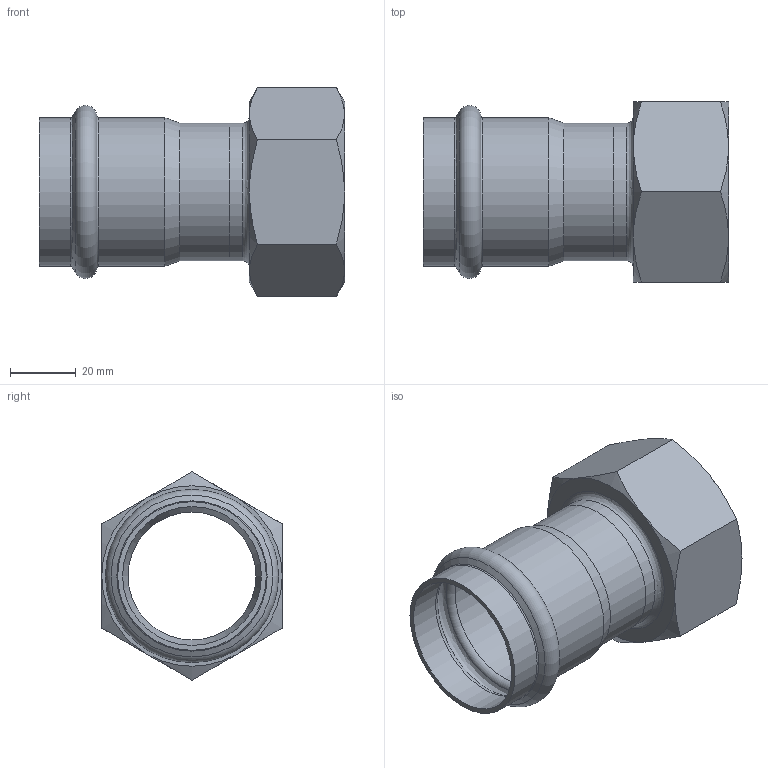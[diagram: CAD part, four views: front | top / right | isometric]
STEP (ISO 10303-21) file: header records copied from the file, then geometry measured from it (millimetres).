
FILE_DESCRIPTION((''),'2;1');
FILE_NAME('G:\Nirosan-Schmiedefeld\Technics\CAD\001 Serie 9.000\042\69270G42112H(2).stp','2017-10-24T09:11:14',('herberg'),(''),'Autodesk Inventor 2009','Autodesk Inventor 2009','');
FILE_SCHEMA(('AUTOMOTIVE_DESIGN { 1 0 10303 214 1 1 1 1 }'));
Length unit declared in the file: millimetre
Products named in the file (3): 69270G42112H(2); 69243G42HM(1); IG42112(1)
Assembly tree (2 placements, depth 2):
  69270G42112H(2)
    69243G42HM(1)
    IG42112(1)
Bounding box: 93 x 55 x 63.51 mm (x, y, z)
Volume: 45316.3 mm3; surface area: 30902.3 mm2
Topology: 2 solids, 2 shells, 45 faces, 90 edges, 51 vertices
Faces by surface type: cone 17, plane 11, bspline 7, cylinder 7, torus 3
Full cylindrical faces by diameter (mm): 39 x1, 42 x2, 42.3 x2, 45.3 x2
Entity records: 1320 total; most frequent: CARTESIAN_POINT 465, DIRECTION 168, ORIENTED_EDGE 136, AXIS2_PLACEMENT_3D 81, EDGE_LOOP 72, EDGE_CURVE 68, VERTEX_POINT 50, FACE_OUTER_BOUND 45
